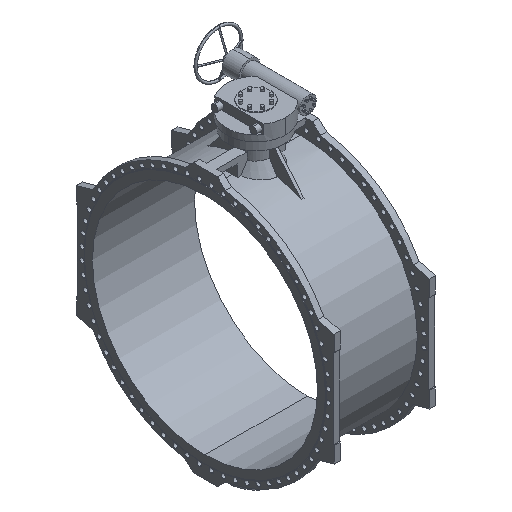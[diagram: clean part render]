
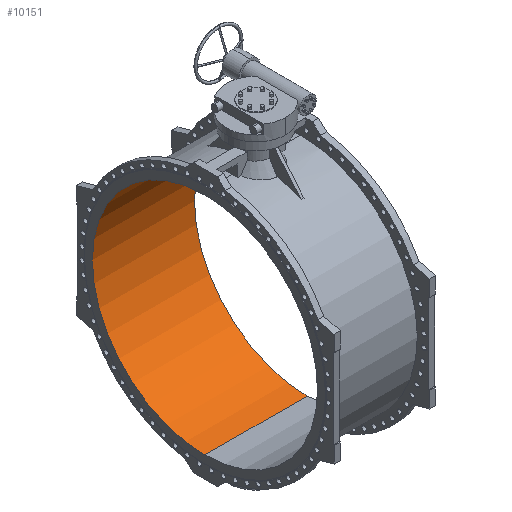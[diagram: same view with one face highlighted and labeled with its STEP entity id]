
A CAD part, isometric view. The second image highlights one B-rep face of the part: STEP entity #10151.
In plain terms, the highlighted cylindrical face has radius 1400 mm (diameter 2800 mm), a partial arc.
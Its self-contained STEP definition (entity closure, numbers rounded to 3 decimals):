
#378 = FACE_OUTER_BOUND ( 'NONE', #15487, .T. ) ;
#447 = CARTESIAN_POINT ( 'NONE',  ( 635., 0., 0. ) ) ;
#785 = EDGE_CURVE ( 'NONE', #16775, #13405, #11392, .T. ) ;
#1779 = AXIS2_PLACEMENT_3D ( 'NONE', #11865, #22535, #6122 ) ;
#1793 = ORIENTED_EDGE ( 'NONE', *, *, #12005, .F. ) ;
#2090 = ORIENTED_EDGE ( 'NONE', *, *, #17405, .T. ) ;
#2360 = DIRECTION ( 'NONE',  ( 1., 0., 0. ) ) ;
#2598 = CARTESIAN_POINT ( 'NONE',  ( -635., 0., 1400. ) ) ;
#4057 = CIRCLE ( 'NONE', #13242, 1400. ) ;
#5696 = DIRECTION ( 'NONE',  ( 1., 0., 0. ) ) ;
#6122 = DIRECTION ( 'NONE',  ( 0., 0., -1. ) ) ;
#7141 = CIRCLE ( 'NONE', #10203, 1400. ) ;
#7847 = DIRECTION ( 'NONE',  ( 0., 0., -1. ) ) ;
#8869 = ORIENTED_EDGE ( 'NONE', *, *, #17923, .F. ) ;
#9601 = VERTEX_POINT ( 'NONE', #11837 ) ;
#10151 = ADVANCED_FACE ( 'Defeatured_0_338', ( #378 ), #14987, .F. ) ;
#10203 = AXIS2_PLACEMENT_3D ( 'NONE', #22103, #5696, #7847 ) ;
#10445 = VECTOR ( 'NONE', #12715, 1000. ) ;
#11392 = LINE ( 'NONE', #16448, #10445 ) ;
#11837 = CARTESIAN_POINT ( 'NONE',  ( -635., 0., 1400. ) ) ;
#11865 = CARTESIAN_POINT ( 'NONE',  ( -635., 0., 0. ) ) ;
#12005 = EDGE_CURVE ( 'NONE', #9601, #14611, #15534, .T. ) ;
#12567 = VECTOR ( 'NONE', #2360, 1000. ) ;
#12715 = DIRECTION ( 'NONE',  ( 1., 0., 0. ) ) ;
#13242 = AXIS2_PLACEMENT_3D ( 'NONE', #447, #22132, #22612 ) ;
#13405 = VERTEX_POINT ( 'NONE', #23147 ) ;
#13457 = ORIENTED_EDGE ( 'NONE', *, *, #785, .T. ) ;
#14611 = VERTEX_POINT ( 'NONE', #17320 ) ;
#14987 = CYLINDRICAL_SURFACE ( 'NONE', #1779, 1400. ) ;
#15487 = EDGE_LOOP ( 'NONE', ( #1793, #8869, #13457, #2090 ) ) ;
#15534 = LINE ( 'NONE', #2598, #12567 ) ;
#16448 = CARTESIAN_POINT ( 'NONE',  ( -635., 0., -1400. ) ) ;
#16775 = VERTEX_POINT ( 'NONE', #18953 ) ;
#17320 = CARTESIAN_POINT ( 'NONE',  ( 635., 0., 1400. ) ) ;
#17405 = EDGE_CURVE ( 'Defeatured_0_338+Defeatured_0_11+Defeatured_0_11+Defeatured_0_11', #13405, #14611, #4057, .T. ) ;
#17923 = EDGE_CURVE ( 'Defeatured_0_10+Defeatured_0_338+Defeatured_0_338+Defeatured_0_338', #16775, #9601, #7141, .T. ) ;
#18953 = CARTESIAN_POINT ( 'NONE',  ( -635., 0., -1400. ) ) ;
#22103 = CARTESIAN_POINT ( 'NONE',  ( -635., 0., 0. ) ) ;
#22132 = DIRECTION ( 'NONE',  ( 1., 0., 0. ) ) ;
#22535 = DIRECTION ( 'NONE',  ( 1., 0., 0. ) ) ;
#22612 = DIRECTION ( 'NONE',  ( 0., 0., -1. ) ) ;
#23147 = CARTESIAN_POINT ( 'NONE',  ( 635., 0., -1400. ) ) ;
